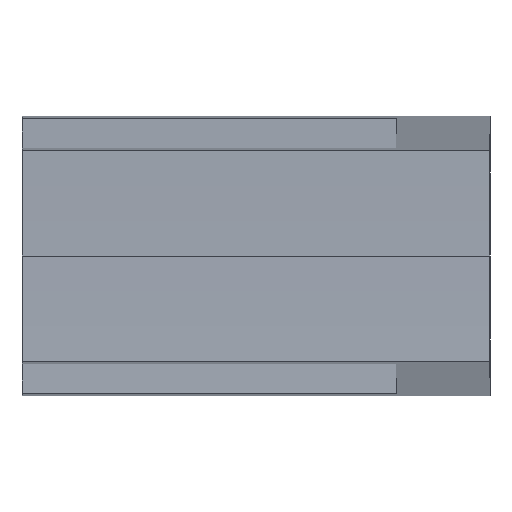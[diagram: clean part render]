
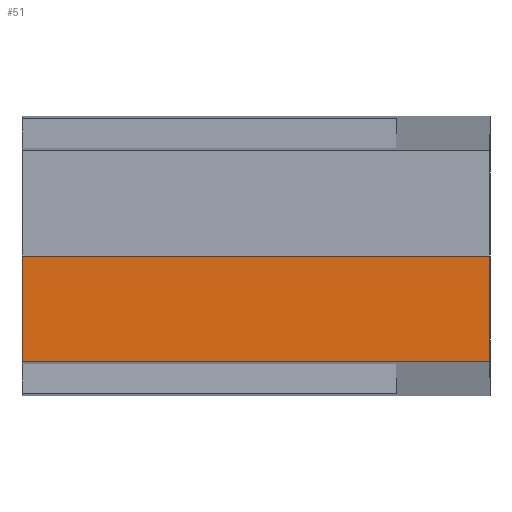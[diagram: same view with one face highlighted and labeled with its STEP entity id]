
A CAD part, left-side view. The second image highlights one B-rep face of the part: STEP entity #51.
In plain terms, the highlighted cylindrical face has radius 43 mm (diameter 86 mm), a partial arc.
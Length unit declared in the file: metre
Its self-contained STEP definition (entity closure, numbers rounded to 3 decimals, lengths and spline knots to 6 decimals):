
#51=ADVANCED_FACE('0:3162',(#67),#68,.F.);
#67=FACE_OUTER_BOUND('',#96,.T.);
#68=CYLINDRICAL_SURFACE('',#97,0.043);
#96=EDGE_LOOP('',(#125,#126,#127,#128));
#97=AXIS2_PLACEMENT_3D('',#129,#130,#131);
#125=ORIENTED_EDGE('',*,*,#240,.F.);
#126=ORIENTED_EDGE('',*,*,#241,.F.);
#127=ORIENTED_EDGE('',*,*,#242,.T.);
#128=ORIENTED_EDGE('',*,*,#243,.F.);
#129=CARTESIAN_POINT('',(0.0,0.0625,0.0));
#130=DIRECTION('',(0.0,-1.0,0.0));
#131=DIRECTION('',(1.0,0.0,0.0));
#240=EDGE_CURVE('',#276,#277,#278,.T.);
#241=EDGE_CURVE('0:3180',#279,#276,#280,.T.);
#242=EDGE_CURVE('0:3240',#279,#281,#282,.T.);
#243=EDGE_CURVE('0:3231',#277,#281,#283,.T.);
#276=VERTEX_POINT('',#336);
#277=VERTEX_POINT('',#337);
#278=LINE('',#338,#339);
#279=VERTEX_POINT('',#340);
#280=CIRCLE('',#341,0.043);
#281=VERTEX_POINT('',#342);
#282=LINE('',#343,#344);
#283=CIRCLE('',#345,0.043);
#336=CARTESIAN_POINT('',(0.043,0.065,0.));
#337=CARTESIAN_POINT('',(0.043,0.06,0.));
#338=CARTESIAN_POINT('',(0.043,0.0625,0.));
#339=VECTOR('',#416,1.0);
#340=CARTESIAN_POINT('',(0.042985,0.065,-0.001126));
#341=AXIS2_PLACEMENT_3D('',#417,#418,#419);
#342=CARTESIAN_POINT('',(0.042985,0.06,-0.001126));
#343=CARTESIAN_POINT('',(0.042985,0.065,-0.001126));
#344=VECTOR('',#420,1.0);
#345=AXIS2_PLACEMENT_3D('',#421,#422,#423);
#416=DIRECTION('',(-0.0,-1.0,0.0));
#417=CARTESIAN_POINT('',(0.0,0.065,0.0));
#418=DIRECTION('',(0.0,-1.0,0.0));
#419=DIRECTION('',(1.0,0.0,0.0));
#420=DIRECTION('',(0.0,-1.0,0.0));
#421=CARTESIAN_POINT('',(0.0,0.06,0.0));
#422=DIRECTION('',(-0.0,1.0,0.0));
#423=DIRECTION('',(1.0,0.0,0.0));
